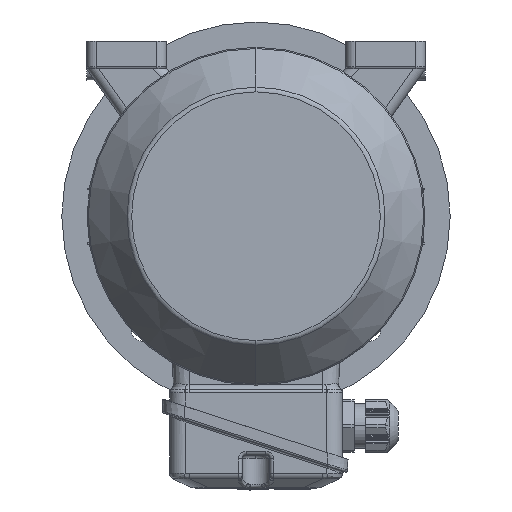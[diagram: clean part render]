
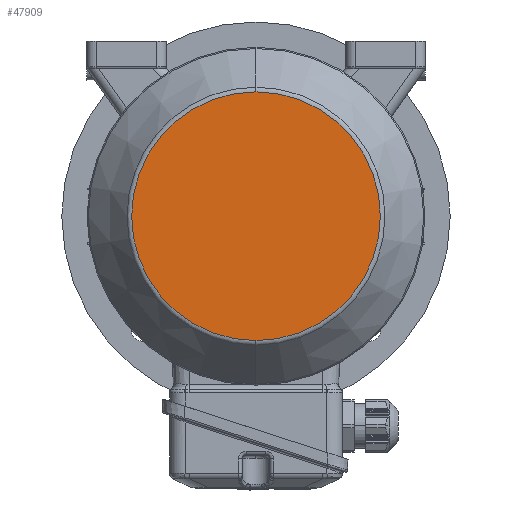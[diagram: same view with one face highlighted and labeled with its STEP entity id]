
A CAD part, left-side view. The second image highlights one B-rep face of the part: STEP entity #47909.
In plain terms, the highlighted planar face has unit normal (-1, 0, 0).
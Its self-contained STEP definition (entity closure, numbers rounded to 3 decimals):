
#3292 = CARTESIAN_POINT ( 'NONE',  ( -166.5, 0., -64.037 ) ) ;
#5726 = EDGE_CURVE ( 'NONE', #27669, #8044, #26095, .T. ) ;
#6211 = DIRECTION ( 'NONE',  ( 0., 0., -1. ) ) ;
#6966 = DIRECTION ( 'NONE',  ( -1., 0., 0. ) ) ;
#8044 = VERTEX_POINT ( 'NONE', #15490 ) ;
#8164 = EDGE_LOOP ( 'NONE', ( #30178, #42945 ) ) ;
#12651 = CARTESIAN_POINT ( 'NONE',  ( -166.5, 0., 0. ) ) ;
#13008 = AXIS2_PLACEMENT_3D ( 'NONE', #35492, #31461, #6211 ) ;
#15490 = CARTESIAN_POINT ( 'NONE',  ( -166.5, 0., 64.037 ) ) ;
#16184 = AXIS2_PLACEMENT_3D ( 'NONE', #12651, #50235, #54106 ) ;
#23057 = CARTESIAN_POINT ( 'NONE',  ( -166.5, 0., -64.037 ) ) ;
#25883 = CIRCLE ( 'NONE', #16184, 64.037 ) ;
#26095 = CIRCLE ( 'NONE', #13008, 64.037 ) ;
#27669 = VERTEX_POINT ( 'NONE', #23057 ) ;
#30178 = ORIENTED_EDGE ( 'NONE', *, *, #5726, .F. ) ;
#31461 = DIRECTION ( 'NONE',  ( 1., 0., 0. ) ) ;
#32544 = DIRECTION ( 'NONE',  ( 0., 1., 0. ) ) ;
#35492 = CARTESIAN_POINT ( 'NONE',  ( -166.5, 0., 0. ) ) ;
#39074 = EDGE_CURVE ( 'NONE', #8044, #27669, #25883, .T. ) ;
#42945 = ORIENTED_EDGE ( 'NONE', *, *, #39074, .F. ) ;
#45421 = PLANE ( 'NONE',  #54238 ) ;
#45670 = FACE_OUTER_BOUND ( 'NONE', #8164, .T. ) ;
#47909 = ADVANCED_FACE ( 'NONE', ( #45670 ), #45421, .T. ) ;
#50235 = DIRECTION ( 'NONE',  ( 1., 0., 0. ) ) ;
#54106 = DIRECTION ( 'NONE',  ( 0., 0., -1. ) ) ;
#54238 = AXIS2_PLACEMENT_3D ( 'NONE', #3292, #6966, #32544 ) ;
